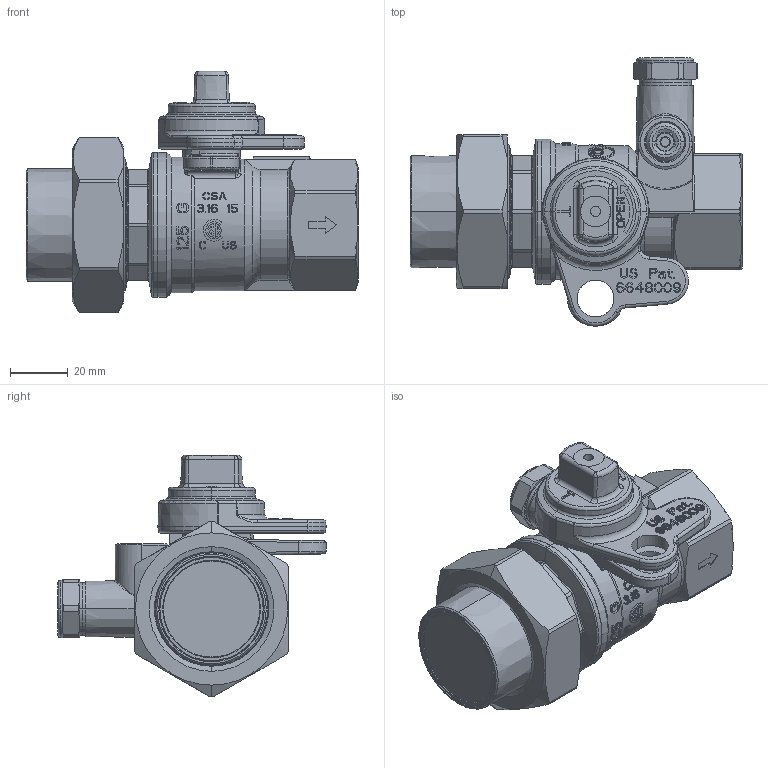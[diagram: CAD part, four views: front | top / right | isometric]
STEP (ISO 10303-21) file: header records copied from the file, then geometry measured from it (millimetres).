
FILE_DESCRIPTION(('Open CASCADE Model'),'2;1');
FILE_NAME('Open CASCADE Shape Model','2021-12-01T11:52:57',('Author'),( 'Open CASCADE'),'Open CASCADE STEP processor 7.3','Open CASCADE 7.3' ,'Unknown');
FILE_SCHEMA(('AUTOMOTIVE_DESIGN { 1 0 10303 214 1 1 1 1 }'));
Length unit declared in the file: millimetre
Products named in the file (38): Open CASCADE STEP translator 7.3 1; Open CASCADE STEP translator 7.3 1.1; Open CASCADE STEP translator 7.3 1.2; Open CASCADE STEP translator 7.3 1.3; Open CASCADE STEP translator 7.3 1.4; Open CASCADE STEP translator 7.3 1.5; Open CASCADE STEP translator 7.3 1.6; Open CASCADE STEP translator 7.3 1.7; Open CASCADE STEP translator 7.3 1.8; Open CASCADE STEP translator 7.3 1.9; Open CASCADE STEP translator 7.3 1.10; Open CASCADE STEP translator 7.3 1.11; Open CASCADE STEP translator 7.3 1.12; Open CASCADE STEP translator 7.3 1.13; Open CASCADE STEP translator 7.3 1.14; Open CASCADE STEP translator 7.3 1.15; Open CASCADE STEP translator 7.3 1.16; Open CASCADE STEP translator 7.3 1.17; Open CASCADE STEP translator 7.3 1.18; Open CASCADE STEP translator 7.3 1.19; Open CASCADE STEP translator 7.3 1.20; Open CASCADE STEP translator 7.3 1.21; Open CASCADE STEP translator 7.3 1.22; Open CASCADE STEP translator 7.3 1.23; Open CASCADE STEP translator 7.3 1.24; Open CASCADE STEP translator 7.3 1.25; Open CASCADE STEP translator 7.3 1.26; Open CASCADE STEP translator 7.3 1.27; Open CASCADE STEP translator 7.3 1.28; Open CASCADE STEP translator 7.3 1.29; Open CASCADE STEP translator 7.3 1.30; Open CASCADE STEP translator 7.3 1.31; Open CASCADE STEP translator 7.3 1.32; Open CASCADE STEP translator 7.3 1.33; Open CASCADE STEP translator 7.3 1.34; Open CASCADE STEP translator 7.3 1.35; Open CASCADE STEP translator 7.3 1.36; Open CASCADE STEP translator 7.3 1.37
Assembly tree (37 placements, depth 2):
  Open CASCADE STEP translator 7.3 1
    Open CASCADE STEP translator 7.3 1.1
    Open CASCADE STEP translator 7.3 1.2
    Open CASCADE STEP translator 7.3 1.3
    Open CASCADE STEP translator 7.3 1.4
    Open CASCADE STEP translator 7.3 1.5
    Open CASCADE STEP translator 7.3 1.6
    Open CASCADE STEP translator 7.3 1.7
    Open CASCADE STEP translator 7.3 1.8
    Open CASCADE STEP translator 7.3 1.9
    Open CASCADE STEP translator 7.3 1.10
    Open CASCADE STEP translator 7.3 1.11
    Open CASCADE STEP translator 7.3 1.12
    Open CASCADE STEP translator 7.3 1.13
    Open CASCADE STEP translator 7.3 1.14
    Open CASCADE STEP translator 7.3 1.15
    Open CASCADE STEP translator 7.3 1.16
    Open CASCADE STEP translator 7.3 1.17
    Open CASCADE STEP translator 7.3 1.18
    Open CASCADE STEP translator 7.3 1.19
    Open CASCADE STEP translator 7.3 1.20
    Open CASCADE STEP translator 7.3 1.21
    Open CASCADE STEP translator 7.3 1.22
    Open CASCADE STEP translator 7.3 1.23
    Open CASCADE STEP translator 7.3 1.24
    Open CASCADE STEP translator 7.3 1.25
    Open CASCADE STEP translator 7.3 1.26
    Open CASCADE STEP translator 7.3 1.27
    Open CASCADE STEP translator 7.3 1.28
    Open CASCADE STEP translator 7.3 1.29
    Open CASCADE STEP translator 7.3 1.30
    Open CASCADE STEP translator 7.3 1.31
    Open CASCADE STEP translator 7.3 1.32
    Open CASCADE STEP translator 7.3 1.33
    Open CASCADE STEP translator 7.3 1.34
    Open CASCADE STEP translator 7.3 1.35
    Open CASCADE STEP translator 7.3 1.36
    Open CASCADE STEP translator 7.3 1.37
Bounding box: 114.5 x 92.5 x 83.25 mm (x, y, z)
Volume: 175395.9 mm3; surface area: 96382.2 mm2
Topology: 21 solids, 37 shells, 2389 faces, 6294 edges, 4041 vertices
Faces by surface type: plane 1240, cylinder 326, extrusion 265, cone 208, torus 158, bspline 149, revolution 24, sphere 19
Entity records: 197200 total; most frequent: CARTESIAN_POINT 79053, DIRECTION 19083, ORIENTED_EDGE 12506, PCURVE 12506, DEFINITIONAL_REPRESENTATION 12506, VECTOR 12162, LINE 11897, EDGE_CURVE 6286
